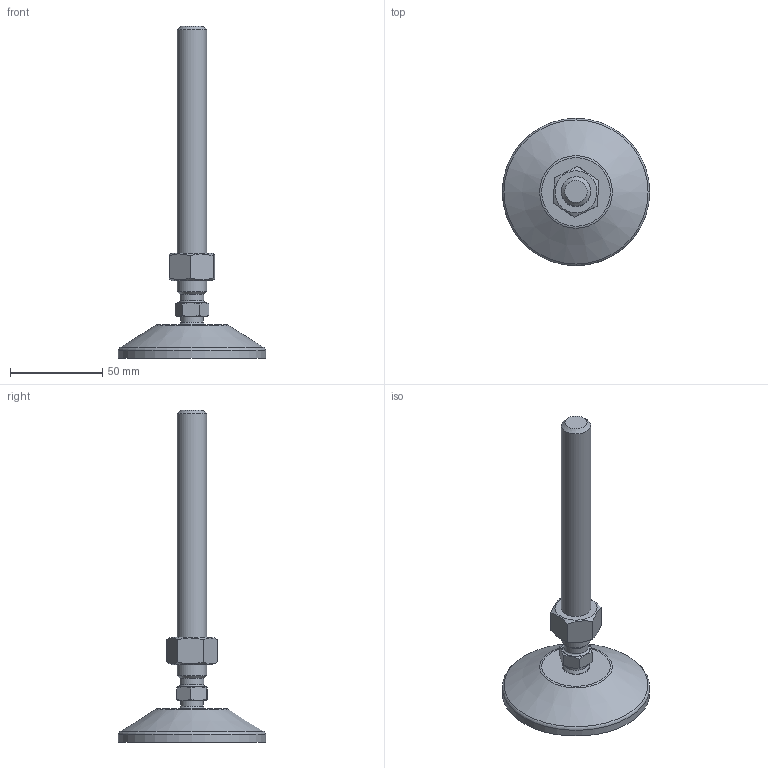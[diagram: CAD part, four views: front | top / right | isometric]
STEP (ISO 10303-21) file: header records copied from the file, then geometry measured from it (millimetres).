
FILE_DESCRIPTION(('STEP AP203'), '1');
FILE_NAME('栖闉罻', '', ('UNSPECIFIED'), ('UNSPECIFIED'), 'C3D Converter', 'C3D Toolkit', '');
FILE_SCHEMA(('CONFIG_CONTROL_DESIGN'));
Length unit declared in the file: millimetre
Products named in the file (4): A00020.116150; A00015.1080
Assembly tree (3 placements, depth 3):
  (unnamed)
    A00020.116150
      (unnamed)
    A00015.1080
Bounding box: 80 x 80 x 180 mm (x, y, z)
Volume: 74069.3 mm3; surface area: 27860 mm2
Topology: 3 solids, 3 shells, 189 faces, 478 edges, 316 vertices
Faces by surface type: plane 95, cylinder 58, cone 20, torus 14, sphere 2
Full cylindrical faces by diameter (mm): 4 x8, 12 x1, 13 x1, 13.835 x1, 14.3 x1, 15 x2, 15.5 x1, 16 x1, 69.3 x1, 80 x1
Entity records: 9576 total; most frequent: CARTESIAN_POINT 3398, DIRECTION 944, ORIENTED_EDGE 884, EDGE_CURVE 442, AXIS2_PLACEMENT_3D 378, VERTEX_POINT 315, EDGE_LOOP 247, FACE_BOUND 207
